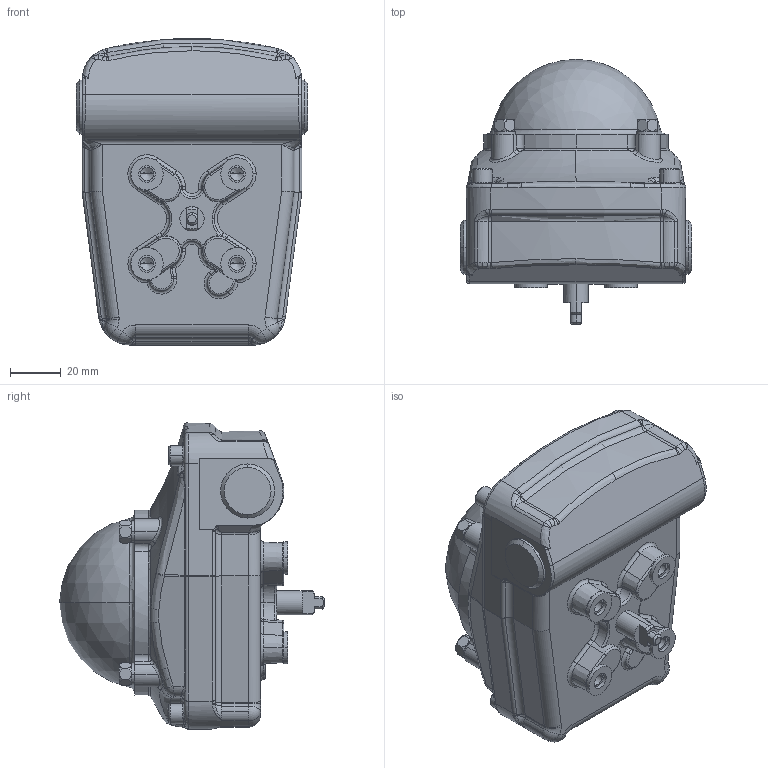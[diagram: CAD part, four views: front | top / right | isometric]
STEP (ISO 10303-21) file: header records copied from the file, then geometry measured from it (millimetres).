
FILE_DESCRIPTION (( 'STEP AP214' ), '1' );
FILE_NAME ('S5A-Block.STEP', '2018-10-12T12:59:08', ( '' ), ( '' ), 'SwSTEP 2.0', 'SolidWorks 2018', '' );
FILE_SCHEMA (( 'AUTOMOTIVE_DESIGN' ));
Length unit declared in the file: millimetre
Products named in the file (2): S5A_8_Simple; S5A-Block
Assembly tree (1 placements, depth 2):
  S5A-Block
    S5A_8_Simple
Bounding box: 91.06 x 104.33 x 120.51 mm (x, y, z)
Volume: 491559.2 mm3; surface area: 41993.1 mm2
Topology: 1 solids, 1 shells, 677 faces, 1632 edges, 950 vertices
Faces by surface type: bspline 169, cylinder 168, plane 122, cone 103, torus 99, sphere 16
Entity records: 33587 total; most frequent: CARTESIAN_POINT 11783, ORIENTED_EDGE 3216, DIRECTION 2811, EDGE_CURVE 1608, AXIS2_PLACEMENT_3D 1213, VERTEX_POINT 950, CIRCLE 701, EDGE_LOOP 694
